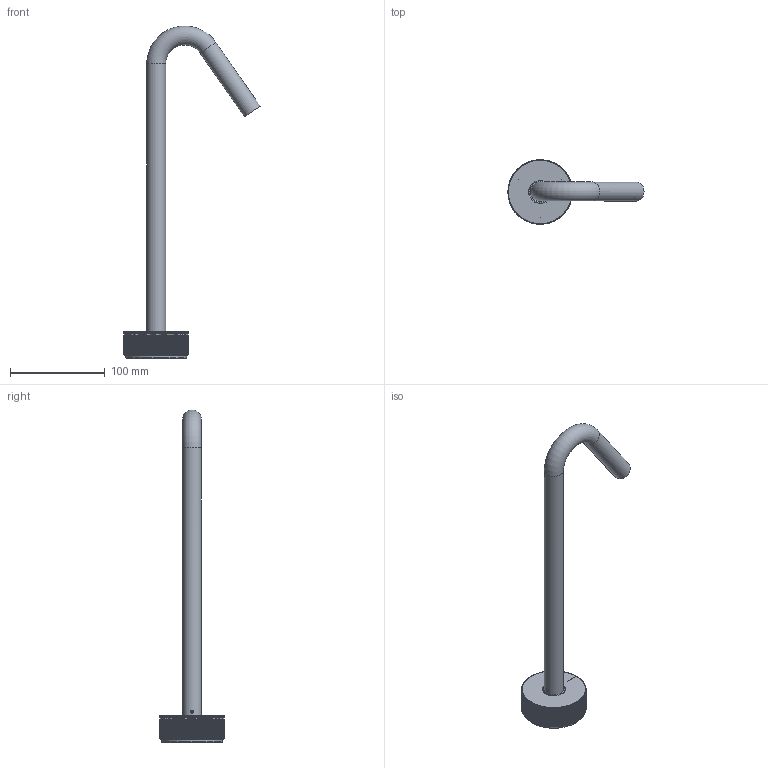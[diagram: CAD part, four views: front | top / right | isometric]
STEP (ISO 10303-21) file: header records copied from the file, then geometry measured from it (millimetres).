
FILE_DESCRIPTION(/* description */ ('Unknown'),/* implementation_level */ '2;1');
FILE_NAME(/* name */ 'RN001H',/* time_stamp */ '2023-02-11T12:19:57+01:00',/* author */ ('Unknown'),/* organization */ ('Unknown'),/* preprocessor_version */ 'ST-DEVELOPER v18.102',/* originating_system */ 'Solid Edge',/* authorisation */ 'Unknown');
FILE_SCHEMA (('AUTOMOTIVE_DESIGN {1 0 10303 214 3 1 1}'));
Length unit declared in the file: millimetre
Products named in the file (12): RN001H; RN001-09; RN001-08; RN001H-01; RN001-12; RN001-001_oa_0; RN001-03; 44.3256.450; CB003-002-1; CB003-002-2; CB003-002-3; CB003-002-4
Assembly tree (11 placements, depth 3):
  RN001H
    RN001-09
    RN001-08
    RN001H-01
    RN001-12
    RN001-001_oa_0
      RN001-03
    44.3256.450
      CB003-002-1
      CB003-002-2
      CB003-002-3
      CB003-002-4
Bounding box: 143.5 x 68 x 349.99 mm (x, y, z)
Volume: 91919.3 mm3; surface area: 77037.8 mm2
Topology: 9 solids, 9 shells, 1175 faces, 2629 edges, 1498 vertices
Faces by surface type: plane 504, cone 406, cylinder 229, torus 19, bspline 17
Full cylindrical faces by diameter (mm): 2.459 x6, 3.242 x1, 5 x3, 11.027 x2, 12.159 x1, 12.196 x1, 12.45 x1, 13.464 x1, 14.577 x1, 15 x2, 15.033 x1, 15.218 x1, 15.229 x1, 15.417 x2, 16 x1, 16.3 x1, 16.5 x2, 16.75 x1, 18 x1, 20 x2, 20.5 x1, 23.8 x1, 24 x1, 28 x1, 30 x1, 34.3 x1, 40.5 x1, 46 x1, 51 x1, 58 x1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
Entity records: 40209 total; most frequent: CARTESIAN_POINT 7843, DIRECTION 5000, ORIENTED_EDGE 4986, EDGE_CURVE 2493, AXIS2_PLACEMENT_3D 2102, VERTEX_POINT 1471, FACE_BOUND 1320, EDGE_LOOP 1314
